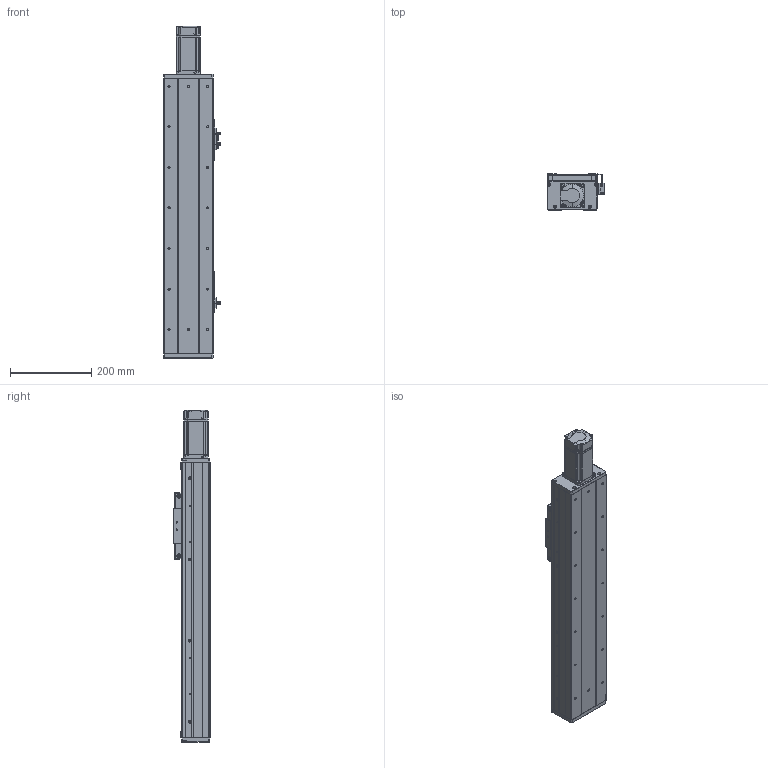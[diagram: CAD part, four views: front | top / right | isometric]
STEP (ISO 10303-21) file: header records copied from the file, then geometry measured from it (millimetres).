
FILE_DESCRIPTION (( 'STEP AP203' ), '1' );
FILE_NAME ('RY120F-L1620-300-MK.SLDASM_400.step', '2021-03-02T06:01:55', ( '盈信电脑' ), ( '东莞市道滘镇水果街19号' ), 'SwSTEP 2.0', 'SolidWorks 2012', '' );
FILE_SCHEMA (( 'CONFIG_CONTROL_DESIGN' ));
Length unit declared in the file: millimetre
Products named in the file (19): RY120F-L1620-300-MK.SLDASM_400; 滅袉蝶18-28; FY120F詩湍揤踡輸; RY120F-臏賑輸 16蹟譫; 672嫖萇羲壽假蚾釱; 覜茼ん672; RY120F-詩湍幗謫粣; RY80俋离覜茼え; RY120F祥凄詩滅鳥裔; 滅袉蝶18-24; RY120F綴裔啣(臏璃ㄘ; 15; 侂狟400W侜督萇儂; RY120F-臏賑輸奻釱; RY120F眻蟀ヶ裔啣; RY120F滅鳥詩湍-300-MK_400; RY120F-300-倰第裔啣_400; 絳寢賑輸EGH15; RY120F-300-倰第菁釱_400
Assembly tree (25 placements, depth 3):
  RY120F-L1620-300-MK.SLDASM_400
    RY120F-300-倰第菁釱_400
    RY120F-300-倰第裔啣_400  x2
    RY120F滅鳥詩湍-300-MK_400
    絳寢賑輸EGH15  x2
    RY120F-臏賑輸奻釱
    侂狟400W侜督萇儂
      15
    RY120F眻蟀ヶ裔啣
    RY120F祥凄詩滅鳥裔
    滅袉蝶18-24
    RY120F綴裔啣(臏璃ㄘ
    RY120F-詩湍幗謫粣
    覜茼ん672  x3
    672嫖萇羲壽假蚾釱  x2
    RY80俋离覜茼え
    FY120F詩湍揤踡輸  x2
    RY120F-臏賑輸 16蹟譫
    滅袉蝶18-28  x2
Bounding box: 140.35 x 89 x 818.5 mm (x, y, z)
Volume: 2750137.9 mm3; surface area: 941076.5 mm2
Topology: 24 solids, 24 shells, 2097 faces, 5597 edges, 3605 vertices
Faces by surface type: plane 966, cylinder 922, cone 191, bspline 18
Entity records: 55674 total; most frequent: CARTESIAN_POINT 9921, DIRECTION 9447, ORIENTED_EDGE 8830, EDGE_CURVE 4415, AXIS2_PLACEMENT_3D 3401, VERTEX_POINT 2889, LINE 2645, VECTOR 2645
